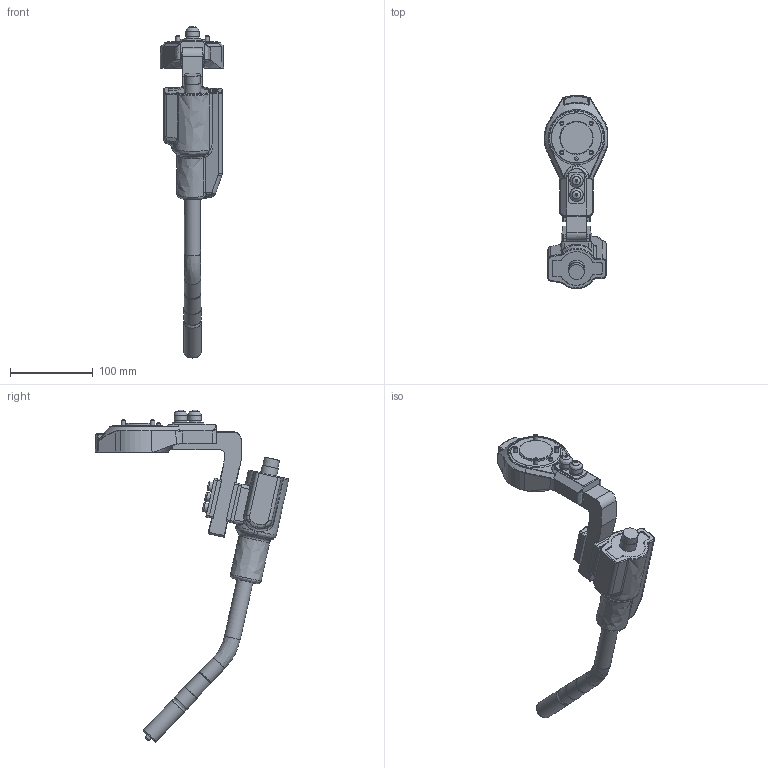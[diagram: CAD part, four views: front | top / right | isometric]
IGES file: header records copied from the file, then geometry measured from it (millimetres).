
Global section: file name: No Iges File Name specified; native system: Autodesk Inventor 2013; preprocessor: AutoDesk Inventor Iges Exporter R2013; author: 4032225; date: 20140327.193054; units: millimetre
Bounding box: 77.14 x 233.68 x 401.54 mm (x, y, z)
Volume: 612427 mm3; surface area: 103622.2 mm2
Topology: 1 solids, 1 shells, 509 faces, 1233 edges, 732 vertices
Faces by surface type: bspline 509
